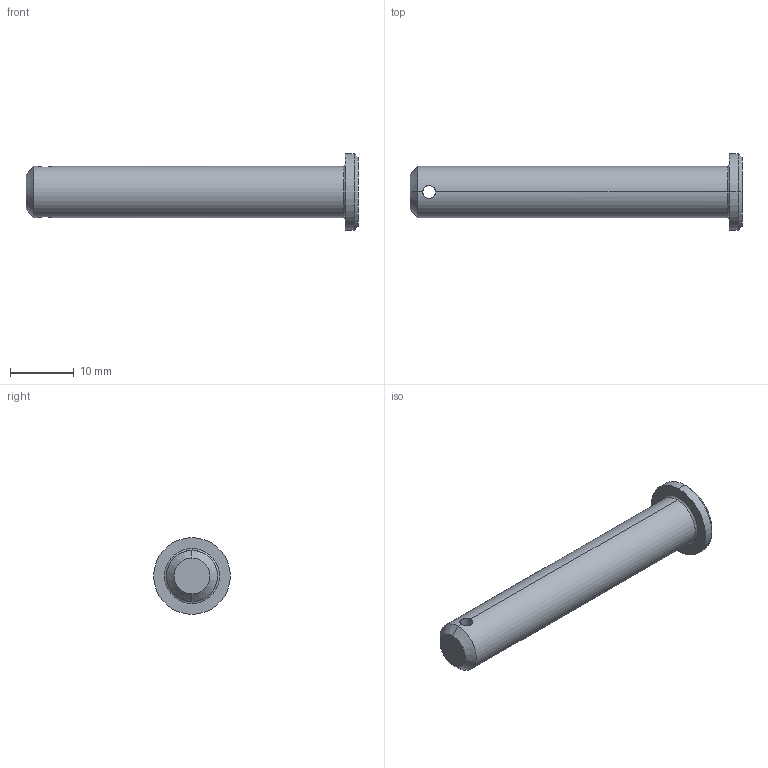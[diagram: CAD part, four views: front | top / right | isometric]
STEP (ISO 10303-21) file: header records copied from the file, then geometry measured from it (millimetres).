
FILE_DESCRIPTION (( 'STEP AP203' ), '1' );
FILE_NAME ('Wiberger-sms2360_8x50.step', '2012-10-09T08:59:10', ( 'Magnus' ), ( 'Wiberger' ), 'SwSTEP 2.0', 'SolidWorks 2011', '' );
FILE_SCHEMA (( 'CONFIG_CONTROL_DESIGN' ));
Length unit declared in the file: millimetre
Products named in the file (1): Wiberger-sms2360_8x50
Bounding box: 52 x 12 x 12 mm (x, y, z)
Volume: 2692.2 mm3; surface area: 1564.9 mm2
Topology: 1 solids, 1 shells, 15 faces, 32 edges, 18 vertices
Faces by surface type: cylinder 6, cone 4, plane 3, torus 2
Entity records: 543 total; most frequent: CARTESIAN_POINT 134, DIRECTION 76, ORIENTED_EDGE 64, AXIS2_PLACEMENT_3D 32, EDGE_CURVE 32, VERTEX_POINT 18, CIRCLE 16, EDGE_LOOP 16
